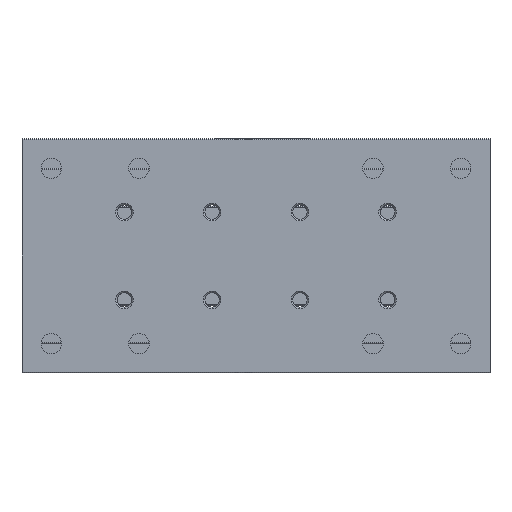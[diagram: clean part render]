
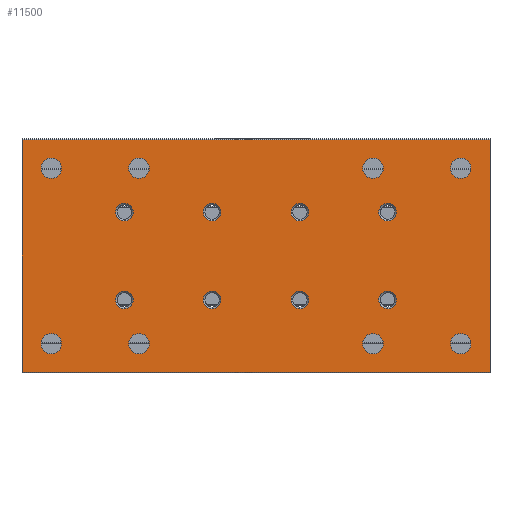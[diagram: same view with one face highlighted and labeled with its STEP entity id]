
A CAD part, front view. The second image highlights one B-rep face of the part: STEP entity #11500.
In plain terms, the highlighted planar face has unit normal (0, -1, 0).
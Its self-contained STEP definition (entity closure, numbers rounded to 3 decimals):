
#398=CIRCLE('',#12196,1.5);
#399=CIRCLE('',#12197,1.5);
#400=CIRCLE('',#12198,1.5);
#401=CIRCLE('',#12199,1.5);
#402=CIRCLE('',#12200,1.5);
#403=CIRCLE('',#12201,1.5);
#404=CIRCLE('',#12202,1.5);
#405=CIRCLE('',#12203,1.5);
#406=CIRCLE('',#12204,1.75);
#407=CIRCLE('',#12205,1.75);
#408=CIRCLE('',#12206,1.75);
#409=CIRCLE('',#12207,1.75);
#410=CIRCLE('',#12208,1.75);
#411=CIRCLE('',#12209,1.75);
#412=CIRCLE('',#12210,1.75);
#413=CIRCLE('',#12211,1.75);
#1193=LINE('',#17590,#2219);
#1215=LINE('',#17634,#2241);
#1217=LINE('',#17670,#2243);
#1218=LINE('',#17672,#2244);
#2219=VECTOR('',#13696,1000.);
#2241=VECTOR('',#13724,1000.);
#2243=VECTOR('',#13760,1000.);
#2244=VECTOR('',#13761,1000.);
#3322=ORIENTED_EDGE('',*,*,#6789,.F.);
#3323=ORIENTED_EDGE('',*,*,#6790,.F.);
#3324=ORIENTED_EDGE('',*,*,#6791,.F.);
#3325=ORIENTED_EDGE('',*,*,#6792,.F.);
#3326=ORIENTED_EDGE('',*,*,#6793,.F.);
#3327=ORIENTED_EDGE('',*,*,#6794,.F.);
#3328=ORIENTED_EDGE('',*,*,#6795,.F.);
#3329=ORIENTED_EDGE('',*,*,#6796,.F.);
#3330=ORIENTED_EDGE('',*,*,#6797,.F.);
#3331=ORIENTED_EDGE('',*,*,#6798,.F.);
#3332=ORIENTED_EDGE('',*,*,#6799,.F.);
#3333=ORIENTED_EDGE('',*,*,#6800,.F.);
#3334=ORIENTED_EDGE('',*,*,#6801,.T.);
#3335=ORIENTED_EDGE('',*,*,#6802,.F.);
#3336=ORIENTED_EDGE('',*,*,#6803,.F.);
#3337=ORIENTED_EDGE('',*,*,#6804,.F.);
#3338=ORIENTED_EDGE('',*,*,#6765,.T.);
#3339=ORIENTED_EDGE('',*,*,#6805,.F.);
#3340=ORIENTED_EDGE('',*,*,#6806,.F.);
#3341=ORIENTED_EDGE('',*,*,#6787,.T.);
#6765=EDGE_CURVE('',#8493,#8492,#1193,.T.);
#6787=EDGE_CURVE('',#8512,#8493,#1215,.T.);
#6789=EDGE_CURVE('',#8513,#8513,#398,.T.);
#6790=EDGE_CURVE('',#8514,#8514,#399,.T.);
#6791=EDGE_CURVE('',#8515,#8515,#400,.T.);
#6792=EDGE_CURVE('',#8516,#8516,#401,.T.);
#6793=EDGE_CURVE('',#8517,#8517,#402,.T.);
#6794=EDGE_CURVE('',#8518,#8518,#403,.T.);
#6795=EDGE_CURVE('',#8519,#8519,#404,.T.);
#6796=EDGE_CURVE('',#8520,#8520,#405,.T.);
#6797=EDGE_CURVE('',#8521,#8521,#406,.T.);
#6798=EDGE_CURVE('',#8522,#8522,#407,.T.);
#6799=EDGE_CURVE('',#8523,#8523,#408,.T.);
#6800=EDGE_CURVE('',#8524,#8524,#409,.T.);
#6801=EDGE_CURVE('',#8525,#8525,#410,.T.);
#6802=EDGE_CURVE('',#8526,#8526,#411,.T.);
#6803=EDGE_CURVE('',#8527,#8527,#412,.T.);
#6804=EDGE_CURVE('',#8528,#8528,#413,.T.);
#6805=EDGE_CURVE('',#8529,#8492,#1217,.T.);
#6806=EDGE_CURVE('',#8512,#8529,#1218,.T.);
#8492=VERTEX_POINT('',#17589);
#8493=VERTEX_POINT('',#17591);
#8512=VERTEX_POINT('',#17635);
#8513=VERTEX_POINT('',#17639);
#8514=VERTEX_POINT('',#17641);
#8515=VERTEX_POINT('',#17643);
#8516=VERTEX_POINT('',#17645);
#8517=VERTEX_POINT('',#17647);
#8518=VERTEX_POINT('',#17649);
#8519=VERTEX_POINT('',#17651);
#8520=VERTEX_POINT('',#17653);
#8521=VERTEX_POINT('',#17655);
#8522=VERTEX_POINT('',#17657);
#8523=VERTEX_POINT('',#17659);
#8524=VERTEX_POINT('',#17661);
#8525=VERTEX_POINT('',#17663);
#8526=VERTEX_POINT('',#17665);
#8527=VERTEX_POINT('',#17667);
#8528=VERTEX_POINT('',#17669);
#8529=VERTEX_POINT('',#17671);
#9607=EDGE_LOOP('',(#3322));
#9608=EDGE_LOOP('',(#3323));
#9609=EDGE_LOOP('',(#3324));
#9610=EDGE_LOOP('',(#3325));
#9611=EDGE_LOOP('',(#3326));
#9612=EDGE_LOOP('',(#3327));
#9613=EDGE_LOOP('',(#3328));
#9614=EDGE_LOOP('',(#3329));
#9615=EDGE_LOOP('',(#3330));
#9616=EDGE_LOOP('',(#3331));
#9617=EDGE_LOOP('',(#3332));
#9618=EDGE_LOOP('',(#3333));
#9619=EDGE_LOOP('',(#3334));
#9620=EDGE_LOOP('',(#3335));
#9621=EDGE_LOOP('',(#3336));
#9622=EDGE_LOOP('',(#3337));
#9623=EDGE_LOOP('',(#3338,#3339,#3340,#3341));
#10403=FACE_BOUND('',#9607,.T.);
#10404=FACE_BOUND('',#9608,.T.);
#10405=FACE_BOUND('',#9609,.T.);
#10406=FACE_BOUND('',#9610,.T.);
#10407=FACE_BOUND('',#9611,.T.);
#10408=FACE_BOUND('',#9612,.T.);
#10409=FACE_BOUND('',#9613,.T.);
#10410=FACE_BOUND('',#9614,.T.);
#10411=FACE_BOUND('',#9615,.T.);
#10412=FACE_BOUND('',#9616,.T.);
#10413=FACE_BOUND('',#9617,.T.);
#10414=FACE_BOUND('',#9618,.T.);
#10415=FACE_BOUND('',#9619,.T.);
#10416=FACE_BOUND('',#9620,.T.);
#10417=FACE_BOUND('',#9621,.T.);
#10418=FACE_BOUND('',#9622,.T.);
#10419=FACE_BOUND('',#9623,.T.);
#11199=PLANE('',#12195);
#11500=ADVANCED_FACE('',(#10403,#10404,#10405,#10406,#10407,#10408,#10409,
#10410,#10411,#10412,#10413,#10414,#10415,#10416,#10417,#10418,#10419),
#11199,.F.);
#12195=AXIS2_PLACEMENT_3D('',#17637,#13726,#13727);
#12196=AXIS2_PLACEMENT_3D('',#17638,#13728,#13729);
#12197=AXIS2_PLACEMENT_3D('',#17640,#13730,#13731);
#12198=AXIS2_PLACEMENT_3D('',#17642,#13732,#13733);
#12199=AXIS2_PLACEMENT_3D('',#17644,#13734,#13735);
#12200=AXIS2_PLACEMENT_3D('',#17646,#13736,#13737);
#12201=AXIS2_PLACEMENT_3D('',#17648,#13738,#13739);
#12202=AXIS2_PLACEMENT_3D('',#17650,#13740,#13741);
#12203=AXIS2_PLACEMENT_3D('',#17652,#13742,#13743);
#12204=AXIS2_PLACEMENT_3D('',#17654,#13744,#13745);
#12205=AXIS2_PLACEMENT_3D('',#17656,#13746,#13747);
#12206=AXIS2_PLACEMENT_3D('',#17658,#13748,#13749);
#12207=AXIS2_PLACEMENT_3D('',#17660,#13750,#13751);
#12208=AXIS2_PLACEMENT_3D('',#17662,#13752,#13753);
#12209=AXIS2_PLACEMENT_3D('',#17664,#13754,#13755);
#12210=AXIS2_PLACEMENT_3D('',#17666,#13756,#13757);
#12211=AXIS2_PLACEMENT_3D('',#17668,#13758,#13759);
#13696=DIRECTION('',(0.,0.,-1.));
#13724=DIRECTION('',(-1.,0.,0.));
#13726=DIRECTION('',(0.,1.,0.));
#13727=DIRECTION('',(0.,0.,1.));
#13728=DIRECTION('',(0.,-1.,0.));
#13729=DIRECTION('',(0.,0.,-1.));
#13730=DIRECTION('',(0.,-1.,0.));
#13731=DIRECTION('',(0.,0.,-1.));
#13732=DIRECTION('',(0.,-1.,0.));
#13733=DIRECTION('',(0.,0.,-1.));
#13734=DIRECTION('',(0.,-1.,0.));
#13735=DIRECTION('',(0.,0.,-1.));
#13736=DIRECTION('',(0.,-1.,0.));
#13737=DIRECTION('',(0.,0.,-1.));
#13738=DIRECTION('',(0.,-1.,0.));
#13739=DIRECTION('',(0.,0.,-1.));
#13740=DIRECTION('',(0.,-1.,0.));
#13741=DIRECTION('',(0.,0.,-1.));
#13742=DIRECTION('',(0.,-1.,0.));
#13743=DIRECTION('',(0.,0.,-1.));
#13744=DIRECTION('',(0.,-1.,0.));
#13745=DIRECTION('',(0.,0.,-1.));
#13746=DIRECTION('',(0.,-1.,0.));
#13747=DIRECTION('',(0.,0.,-1.));
#13748=DIRECTION('',(0.,-1.,0.));
#13749=DIRECTION('',(0.,0.,-1.));
#13750=DIRECTION('',(0.,-1.,0.));
#13751=DIRECTION('',(0.,0.,-1.));
#13752=DIRECTION('',(0.,1.,0.));
#13753=DIRECTION('',(0.,0.,1.));
#13754=DIRECTION('',(0.,-1.,0.));
#13755=DIRECTION('',(0.,0.,-1.));
#13756=DIRECTION('',(0.,-1.,0.));
#13757=DIRECTION('',(0.,0.,-1.));
#13758=DIRECTION('',(0.,-1.,0.));
#13759=DIRECTION('',(0.,0.,-1.));
#13760=DIRECTION('',(-1.,0.,0.));
#13761=DIRECTION('',(0.,0.,-1.));
#17589=CARTESIAN_POINT('',(0.,0.,-19.85));
#17590=CARTESIAN_POINT('',(0.,0.,19.85));
#17591=CARTESIAN_POINT('',(0.,0.,19.85));
#17634=CARTESIAN_POINT('',(80.,0.,19.85));
#17635=CARTESIAN_POINT('',(80.,0.,19.85));
#17637=CARTESIAN_POINT('',(80.,0.,19.85));
#17638=CARTESIAN_POINT('',(17.5,0.,-7.5));
#17639=CARTESIAN_POINT('',(17.5,0.,-9.));
#17640=CARTESIAN_POINT('',(17.5,0.,7.5));
#17641=CARTESIAN_POINT('',(17.5,0.,6.));
#17642=CARTESIAN_POINT('',(62.5,0.,-7.5));
#17643=CARTESIAN_POINT('',(62.5,0.,-9.));
#17644=CARTESIAN_POINT('',(62.5,0.,7.5));
#17645=CARTESIAN_POINT('',(62.5,0.,6.));
#17646=CARTESIAN_POINT('',(47.5,0.,-7.5));
#17647=CARTESIAN_POINT('',(47.5,0.,-9.));
#17648=CARTESIAN_POINT('',(47.5,0.,7.5));
#17649=CARTESIAN_POINT('',(47.5,0.,6.));
#17650=CARTESIAN_POINT('',(32.5,0.,-7.5));
#17651=CARTESIAN_POINT('',(32.5,0.,-9.));
#17652=CARTESIAN_POINT('',(32.5,0.,7.5));
#17653=CARTESIAN_POINT('',(32.5,0.,6.));
#17654=CARTESIAN_POINT('',(60.,0.,15.));
#17655=CARTESIAN_POINT('',(60.,0.,13.25));
#17656=CARTESIAN_POINT('',(60.,0.,-15.));
#17657=CARTESIAN_POINT('',(60.,0.,-16.75));
#17658=CARTESIAN_POINT('',(20.,0.,15.));
#17659=CARTESIAN_POINT('',(20.,0.,13.25));
#17660=CARTESIAN_POINT('',(20.,0.,-15.));
#17661=CARTESIAN_POINT('',(20.,0.,-16.75));
#17662=CARTESIAN_POINT('',(75.,0.,15.));
#17663=CARTESIAN_POINT('',(75.,0.,16.75));
#17664=CARTESIAN_POINT('',(75.,0.,-15.));
#17665=CARTESIAN_POINT('',(75.,0.,-16.75));
#17666=CARTESIAN_POINT('',(5.,0.,-15.));
#17667=CARTESIAN_POINT('',(5.,0.,-16.75));
#17668=CARTESIAN_POINT('',(5.,0.,15.));
#17669=CARTESIAN_POINT('',(5.,0.,13.25));
#17670=CARTESIAN_POINT('',(80.,0.,-19.85));
#17671=CARTESIAN_POINT('',(80.,0.,-19.85));
#17672=CARTESIAN_POINT('',(80.,0.,19.85));
